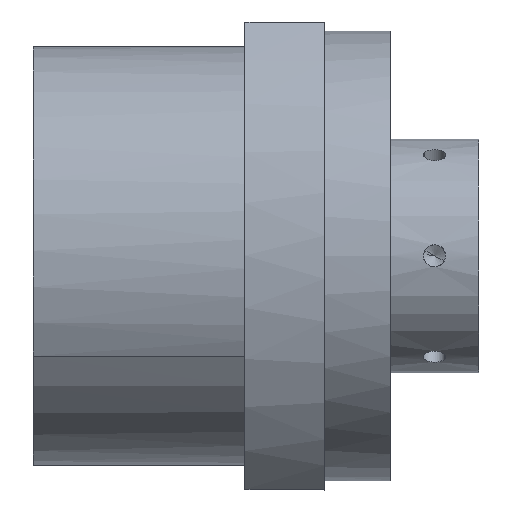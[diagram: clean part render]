
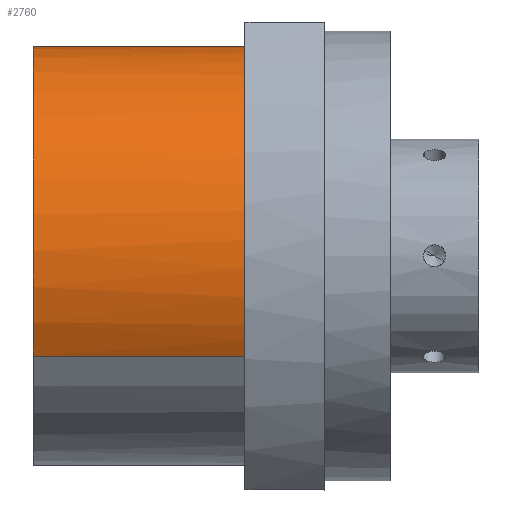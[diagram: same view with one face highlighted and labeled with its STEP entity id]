
A CAD part, top view. The second image highlights one B-rep face of the part: STEP entity #2760.
In plain terms, the highlighted cylindrical face has radius 47.5 mm (diameter 95 mm), a partial arc.
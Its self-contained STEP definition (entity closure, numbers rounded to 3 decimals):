
#1871=CARTESIAN_POINT('Control Point',(-18.,22.773,-41.685)) ;
#1872=CARTESIAN_POINT('Control Point',(-18.,26.625,-39.581)) ;
#1873=CARTESIAN_POINT('Control Point',(-18.,30.234,-37.032)) ;
#1874=CARTESIAN_POINT('Control Point',(-18.,33.531,-34.075)) ;
#1875=CARTESIAN_POINT('Control Point',(-18.,39.383,-27.453)) ;
#1876=CARTESIAN_POINT('Control Point',(-18.,43.571,-19.672)) ;
#1877=CARTESIAN_POINT('Control Point',(-18.,45.205,-15.555)) ;
#1878=CARTESIAN_POINT('Control Point',(-18.,47.491,-7.019)) ;
#1879=CARTESIAN_POINT('Control Point',(-18.,47.772,1.814)) ;
#1880=CARTESIAN_POINT('Control Point',(-18.,47.399,6.227)) ;
#1881=CARTESIAN_POINT('Control Point',(-18.,45.64,14.887)) ;
#1882=CARTESIAN_POINT('Control Point',(-18.,41.954,22.918)) ;
#1883=CARTESIAN_POINT('Control Point',(-18.,39.653,26.703)) ;
#1884=CARTESIAN_POINT('Control Point',(-18.,34.219,33.671)) ;
#1885=CARTESIAN_POINT('Control Point',(-18.,27.339,39.217)) ;
#1886=CARTESIAN_POINT('Control Point',(-18.,23.592,41.579)) ;
#1887=CARTESIAN_POINT('Control Point',(-18.,15.621,45.394)) ;
#1888=CARTESIAN_POINT('Control Point',(-18.,6.991,47.292)) ;
#1889=CARTESIAN_POINT('Control Point',(-18.,2.584,47.736)) ;
#1890=CARTESIAN_POINT('Control Point',(-18.,-5.366,47.612)) ;
#1891=CARTESIAN_POINT('Control Point',(-18.,-13.102,45.86)) ;
#1892=CARTESIAN_POINT('Control Point',(-18.,-16.458,44.766)) ;
#1893=CARTESIAN_POINT('Control Point',(-18.,-19.693,43.368)) ;
#1894=CARTESIAN_POINT('Control Point',(-18.,-22.773,41.685)) ;
#1895=CARTESIAN_POINT('Vertex',(-18.,22.773,-41.685)) ;
#1897=CARTESIAN_POINT('Vertex',(-18.,-22.773,41.685)) ;
#2730=CARTESIAN_POINT('Axis2P3D Location',(-84.861,0.,0.)) ;
#2735=CARTESIAN_POINT('Line Origine',(-84.861,-22.773,41.685)) ;
#2739=CARTESIAN_POINT('Vertex',(-66.,-22.773,41.685)) ;
#2742=CARTESIAN_POINT('Line Origine',(-84.861,22.773,-41.685)) ;
#2746=CARTESIAN_POINT('Vertex',(-66.,22.773,-41.685)) ;
#2749=CARTESIAN_POINT('Axis2P3D Location',(-66.,0.,0.)) ;
#2731=DIRECTION('Axis2P3D Direction',(1.,0.,0.)) ;
#2732=DIRECTION('Axis2P3D XDirection',(0.,0.479,-0.878)) ;
#2736=DIRECTION('Vector Direction',(1.,0.,0.)) ;
#2743=DIRECTION('Vector Direction',(1.,0.,0.)) ;
#2750=DIRECTION('Axis2P3D Direction',(1.,0.,0.)) ;
#2733=AXIS2_PLACEMENT_3D('Cylinder Axis2P3D',#2730,#2731,#2732) ;
#2751=AXIS2_PLACEMENT_3D('Circle Axis2P3D',#2749,#2750,$) ;
#2755=ORIENTED_EDGE('',*,*,#2741,.F.) ;
#2756=ORIENTED_EDGE('',*,*,#1899,.F.) ;
#2757=ORIENTED_EDGE('',*,*,#2748,.T.) ;
#2758=ORIENTED_EDGE('',*,*,#2753,.T.) ;
#2737=VECTOR('Line Direction',#2736,1.) ;
#2744=VECTOR('Line Direction',#2743,1.) ;
#2760=ADVANCED_FACE('WBK35DFD(H)',(#2759),#2734,.T.) ;
#1870=B_SPLINE_CURVE_WITH_KNOTS('',5,(#1871,#1872,#1873,#1874,#1875,#1876,#1877,#1878,#1879,#1880,#1881,#1882,#1883,#1884,#1885,#1886,#1887,#1888,#1889,#1890,#1891,#1892,#1893,#1894),.UNSPECIFIED.,.F.,.U.,(6,3,3,3,3,3,3,6),(0.,31.037,62.074,93.11,124.147,155.184,186.221,211.035),.UNSPECIFIED.) ;
#2752=CIRCLE('generated circle',#2751,47.5) ;
#2734=CYLINDRICAL_SURFACE('generated cylinder',#2733,47.5) ;
#1899=EDGE_CURVE('',#1896,#1898,#1870,.T.) ;
#2741=EDGE_CURVE('',#1898,#2740,#2738,.F.) ;
#2748=EDGE_CURVE('',#1896,#2747,#2745,.F.) ;
#2753=EDGE_CURVE('',#2747,#2740,#2752,.T.) ;
#2754=EDGE_LOOP('',(#2755,#2756,#2757,#2758)) ;
#2759=FACE_OUTER_BOUND('',#2754,.T.) ;
#2738=LINE('Line',#2735,#2737) ;
#2745=LINE('Line',#2742,#2744) ;
#1896=VERTEX_POINT('',#1895) ;
#1898=VERTEX_POINT('',#1897) ;
#2740=VERTEX_POINT('',#2739) ;
#2747=VERTEX_POINT('',#2746) ;
